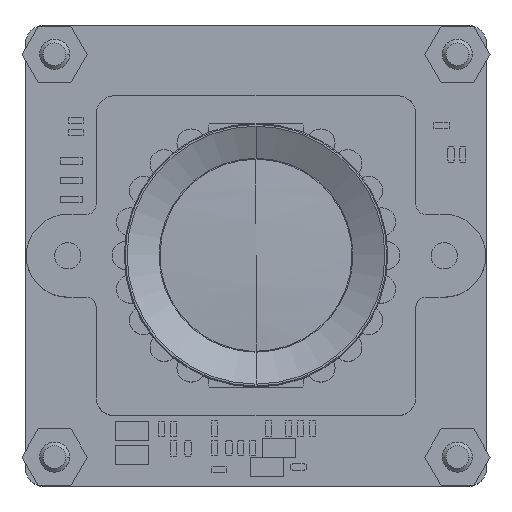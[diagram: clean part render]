
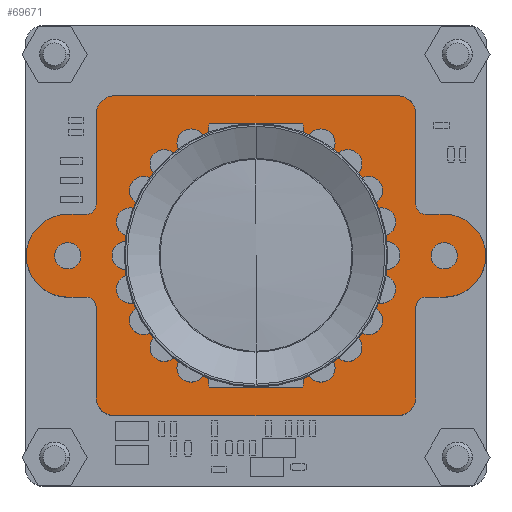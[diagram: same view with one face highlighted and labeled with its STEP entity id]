
A CAD part, top view. The second image highlights one B-rep face of the part: STEP entity #69671.
In plain terms, the highlighted planar face has unit normal (0, 0, 1) as drawn and (0, 0, -1) by its records, which use the part's own axes.
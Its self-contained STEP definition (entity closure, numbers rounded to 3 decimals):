
#68678=DIRECTION('',(0.,1.,0.));
#68679=VECTOR('',#68678,1.);
#68680=CARTESIAN_POINT('',(1156.924,388.466,0.));
#68681=LINE('',#68680,#68679);
#68682=CARTESIAN_POINT('',(1154.724,389.466,0.));
#68683=DIRECTION('',(0.,0.,1.));
#68684=DIRECTION('',(1.,0.,0.));
#68685=AXIS2_PLACEMENT_3D('',#68682,#68683,#68684);
#68687=DIRECTION('',(0.,-1.,0.));
#68688=VECTOR('',#68687,1.);
#68689=CARTESIAN_POINT('',(1152.524,389.466,0.));
#68690=LINE('',#68689,#68688);
#68691=CARTESIAN_POINT('',(1152.024,388.466,0.));
#68692=DIRECTION('',(0.,0.,-1.));
#68693=DIRECTION('',(1.,0.,0.));
#68694=AXIS2_PLACEMENT_3D('',#68691,#68692,#68693);
#68696=DIRECTION('',(-1.,0.,0.));
#68697=VECTOR('',#68696,4.8);
#68698=CARTESIAN_POINT('',(1152.024,387.966,0.));
#68699=LINE('',#68698,#68697);
#68700=CARTESIAN_POINT('',(1147.224,386.966,0.));
#68701=DIRECTION('',(0.,0.,1.));
#68702=DIRECTION('',(0.,1.,0.));
#68703=AXIS2_PLACEMENT_3D('',#68700,#68701,#68702);
#68705=DIRECTION('',(0.,-1.,0.));
#68706=VECTOR('',#68705,15.);
#68707=CARTESIAN_POINT('',(1146.224,386.966,0.));
#68708=LINE('',#68707,#68706);
#68709=CARTESIAN_POINT('',(1147.224,371.966,0.));
#68710=DIRECTION('',(0.,0.,1.));
#68711=DIRECTION('',(-1.,0.,0.));
#68712=AXIS2_PLACEMENT_3D('',#68709,#68710,#68711);
#68714=DIRECTION('',(1.,0.,0.));
#68715=VECTOR('',#68714,4.8);
#68716=CARTESIAN_POINT('',(1147.224,370.966,0.));
#68717=LINE('',#68716,#68715);
#68718=CARTESIAN_POINT('',(1152.024,370.466,0.));
#68719=DIRECTION('',(0.,0.,-1.));
#68720=DIRECTION('',(0.,1.,0.));
#68721=AXIS2_PLACEMENT_3D('',#68718,#68719,#68720);
#68723=DIRECTION('',(0.,-1.,0.));
#68724=VECTOR('',#68723,1.);
#68725=CARTESIAN_POINT('',(1152.524,370.466,0.));
#68726=LINE('',#68725,#68724);
#68727=CARTESIAN_POINT('',(1154.724,369.466,0.));
#68728=DIRECTION('',(0.,0.,1.));
#68729=DIRECTION('',(-1.,0.,0.));
#68730=AXIS2_PLACEMENT_3D('',#68727,#68728,#68729);
#68732=DIRECTION('',(0.,1.,0.));
#68733=VECTOR('',#68732,1.);
#68734=CARTESIAN_POINT('',(1156.924,369.466,0.));
#68735=LINE('',#68734,#68733);
#68736=CARTESIAN_POINT('',(1157.424,370.466,0.));
#68737=DIRECTION('',(0.,0.,-1.));
#68738=DIRECTION('',(-1.,0.,0.));
#68739=AXIS2_PLACEMENT_3D('',#68736,#68737,#68738);
#68741=DIRECTION('',(1.,0.,0.));
#68742=VECTOR('',#68741,4.8);
#68743=CARTESIAN_POINT('',(1157.424,370.966,0.));
#68744=LINE('',#68743,#68742);
#68745=CARTESIAN_POINT('',(1162.224,371.966,0.));
#68746=DIRECTION('',(0.,0.,1.));
#68747=DIRECTION('',(0.,-1.,0.));
#68748=AXIS2_PLACEMENT_3D('',#68745,#68746,#68747);
#68750=DIRECTION('',(0.,1.,0.));
#68751=VECTOR('',#68750,15.);
#68752=CARTESIAN_POINT('',(1163.224,371.966,0.));
#68753=LINE('',#68752,#68751);
#68754=CARTESIAN_POINT('',(1162.224,386.966,0.));
#68755=DIRECTION('',(0.,0.,1.));
#68756=DIRECTION('',(1.,0.,0.));
#68757=AXIS2_PLACEMENT_3D('',#68754,#68755,#68756);
#68759=DIRECTION('',(-1.,0.,0.));
#68760=VECTOR('',#68759,4.8);
#68761=CARTESIAN_POINT('',(1162.224,387.966,0.));
#68762=LINE('',#68761,#68760);
#68763=CARTESIAN_POINT('',(1157.424,388.466,0.));
#68764=DIRECTION('',(0.,0.,-1.));
#68765=DIRECTION('',(0.,-1.,0.));
#68766=AXIS2_PLACEMENT_3D('',#68763,#68764,#68765);
#68768=CARTESIAN_POINT('',(1154.724,369.467,0.));
#68769=DIRECTION('',(0.,0.,-1.));
#68770=DIRECTION('',(1.,0.,0.));
#68771=AXIS2_PLACEMENT_3D('',#68768,#68769,#68770);
#68773=CARTESIAN_POINT('',(1154.724,369.467,0.));
#68774=DIRECTION('',(0.,0.,-1.));
#68775=DIRECTION('',(-1.,0.,0.));
#68776=AXIS2_PLACEMENT_3D('',#68773,#68774,#68775);
#68778=CARTESIAN_POINT('',(1154.724,389.466,0.));
#68779=DIRECTION('',(0.,0.,-1.));
#68780=DIRECTION('',(1.,0.,0.));
#68781=AXIS2_PLACEMENT_3D('',#68778,#68779,#68780);
#68783=CARTESIAN_POINT('',(1154.724,389.466,0.));
#68784=DIRECTION('',(0.,0.,-1.));
#68785=DIRECTION('',(-1.,0.,0.));
#68786=AXIS2_PLACEMENT_3D('',#68783,#68784,#68785);
#68788=CARTESIAN_POINT('',(1154.724,379.466,0.));
#68789=DIRECTION('',(0.,0.,-1.));
#68790=DIRECTION('',(-1.,0.,0.));
#68791=AXIS2_PLACEMENT_3D('',#68788,#68789,#68790);
#68793=CARTESIAN_POINT('',(1154.724,379.466,0.));
#68794=DIRECTION('',(0.,0.,-1.));
#68795=DIRECTION('',(1.,0.,0.));
#68796=AXIS2_PLACEMENT_3D('',#68793,#68794,#68795);
#69390=CARTESIAN_POINT('',(1156.924,388.466,0.));
#69391=CARTESIAN_POINT('',(1156.924,389.466,0.));
#69392=VERTEX_POINT('',#69390);
#69393=VERTEX_POINT('',#69391);
#69394=CARTESIAN_POINT('',(1152.524,389.466,0.));
#69395=VERTEX_POINT('',#69394);
#69396=CARTESIAN_POINT('',(1152.524,388.466,0.));
#69397=VERTEX_POINT('',#69396);
#69398=CARTESIAN_POINT('',(1152.024,387.966,0.));
#69399=VERTEX_POINT('',#69398);
#69400=CARTESIAN_POINT('',(1147.224,387.966,0.));
#69401=VERTEX_POINT('',#69400);
#69402=CARTESIAN_POINT('',(1146.224,386.966,0.));
#69403=VERTEX_POINT('',#69402);
#69404=CARTESIAN_POINT('',(1146.224,371.966,0.));
#69405=VERTEX_POINT('',#69404);
#69406=CARTESIAN_POINT('',(1147.224,370.966,0.));
#69407=VERTEX_POINT('',#69406);
#69408=CARTESIAN_POINT('',(1152.024,370.966,0.));
#69409=VERTEX_POINT('',#69408);
#69410=CARTESIAN_POINT('',(1152.524,370.466,0.));
#69411=VERTEX_POINT('',#69410);
#69412=CARTESIAN_POINT('',(1152.524,369.466,0.));
#69413=VERTEX_POINT('',#69412);
#69414=CARTESIAN_POINT('',(1156.924,369.466,0.));
#69415=VERTEX_POINT('',#69414);
#69416=CARTESIAN_POINT('',(1156.924,370.466,0.));
#69417=VERTEX_POINT('',#69416);
#69418=CARTESIAN_POINT('',(1157.424,370.966,0.));
#69419=VERTEX_POINT('',#69418);
#69420=CARTESIAN_POINT('',(1162.224,370.966,0.));
#69421=VERTEX_POINT('',#69420);
#69422=CARTESIAN_POINT('',(1163.224,371.966,0.));
#69423=VERTEX_POINT('',#69422);
#69424=CARTESIAN_POINT('',(1163.224,386.966,0.));
#69425=VERTEX_POINT('',#69424);
#69426=CARTESIAN_POINT('',(1162.224,387.966,0.));
#69427=VERTEX_POINT('',#69426);
#69428=CARTESIAN_POINT('',(1157.424,387.966,0.));
#69429=VERTEX_POINT('',#69428);
#69430=CARTESIAN_POINT('',(1155.424,369.467,0.));
#69431=CARTESIAN_POINT('',(1154.024,369.467,0.));
#69432=VERTEX_POINT('',#69430);
#69433=VERTEX_POINT('',#69431);
#69434=CARTESIAN_POINT('',(1155.424,389.466,0.));
#69435=CARTESIAN_POINT('',(1154.024,389.466,0.));
#69436=VERTEX_POINT('',#69434);
#69437=VERTEX_POINT('',#69435);
#69438=CARTESIAN_POINT('',(1147.724,379.466,0.));
#69439=CARTESIAN_POINT('',(1161.724,379.466,0.));
#69440=VERTEX_POINT('',#69438);
#69441=VERTEX_POINT('',#69439);
#69606=CARTESIAN_POINT('',(0.,0.,0.));
#69607=DIRECTION('',(0.,0.,1.));
#69608=DIRECTION('',(1.,0.,0.));
#69609=AXIS2_PLACEMENT_3D('',#69606,#69607,#69608);
#69610=PLANE('',#69609);
#69612=ORIENTED_EDGE('',*,*,#69611,.T.);
#69614=ORIENTED_EDGE('',*,*,#69613,.T.);
#69616=ORIENTED_EDGE('',*,*,#69615,.T.);
#69618=ORIENTED_EDGE('',*,*,#69617,.T.);
#69620=ORIENTED_EDGE('',*,*,#69619,.T.);
#69622=ORIENTED_EDGE('',*,*,#69621,.T.);
#69624=ORIENTED_EDGE('',*,*,#69623,.T.);
#69626=ORIENTED_EDGE('',*,*,#69625,.T.);
#69628=ORIENTED_EDGE('',*,*,#69627,.T.);
#69630=ORIENTED_EDGE('',*,*,#69629,.T.);
#69632=ORIENTED_EDGE('',*,*,#69631,.T.);
#69634=ORIENTED_EDGE('',*,*,#69633,.T.);
#69636=ORIENTED_EDGE('',*,*,#69635,.T.);
#69638=ORIENTED_EDGE('',*,*,#69637,.T.);
#69640=ORIENTED_EDGE('',*,*,#69639,.T.);
#69642=ORIENTED_EDGE('',*,*,#69641,.T.);
#69644=ORIENTED_EDGE('',*,*,#69643,.T.);
#69646=ORIENTED_EDGE('',*,*,#69645,.T.);
#69648=ORIENTED_EDGE('',*,*,#69647,.T.);
#69650=ORIENTED_EDGE('',*,*,#69649,.T.);
#69651=EDGE_LOOP('',(#69612,#69614,#69616,#69618,#69620,#69622,#69624,#69626,
#69628,#69630,#69632,#69634,#69636,#69638,#69640,#69642,#69644,#69646,#69648,
#69650));
#69652=FACE_OUTER_BOUND('',#69651,.F.);
#69654=ORIENTED_EDGE('',*,*,#69653,.T.);
#69656=ORIENTED_EDGE('',*,*,#69655,.T.);
#69657=EDGE_LOOP('',(#69654,#69656));
#69658=FACE_BOUND('',#69657,.F.);
#69660=ORIENTED_EDGE('',*,*,#69659,.T.);
#69662=ORIENTED_EDGE('',*,*,#69661,.T.);
#69663=EDGE_LOOP('',(#69660,#69662));
#69664=FACE_BOUND('',#69663,.F.);
#69666=ORIENTED_EDGE('',*,*,#69665,.T.);
#69668=ORIENTED_EDGE('',*,*,#69667,.T.);
#69669=EDGE_LOOP('',(#69666,#69668));
#69670=FACE_BOUND('',#69669,.F.);
#68686=CIRCLE('',#68685,2.2);
#68695=CIRCLE('',#68694,0.5);
#68704=CIRCLE('',#68703,1.);
#68713=CIRCLE('',#68712,1.);
#68722=CIRCLE('',#68721,0.5);
#68731=CIRCLE('',#68730,2.2);
#68740=CIRCLE('',#68739,0.5);
#68749=CIRCLE('',#68748,1.);
#68758=CIRCLE('',#68757,1.);
#68767=CIRCLE('',#68766,0.5);
#68772=CIRCLE('',#68771,0.7);
#68777=CIRCLE('',#68776,0.7);
#68782=CIRCLE('',#68781,0.7);
#68787=CIRCLE('',#68786,0.7);
#68792=CIRCLE('',#68791,7.);
#68797=CIRCLE('',#68796,7.);
#69611=EDGE_CURVE('',#69392,#69393,#68681,.T.);
#69613=EDGE_CURVE('',#69393,#69395,#68686,.T.);
#69615=EDGE_CURVE('',#69395,#69397,#68690,.T.);
#69617=EDGE_CURVE('',#69397,#69399,#68695,.T.);
#69619=EDGE_CURVE('',#69399,#69401,#68699,.T.);
#69621=EDGE_CURVE('',#69401,#69403,#68704,.T.);
#69623=EDGE_CURVE('',#69403,#69405,#68708,.T.);
#69625=EDGE_CURVE('',#69405,#69407,#68713,.T.);
#69627=EDGE_CURVE('',#69407,#69409,#68717,.T.);
#69629=EDGE_CURVE('',#69409,#69411,#68722,.T.);
#69631=EDGE_CURVE('',#69411,#69413,#68726,.T.);
#69633=EDGE_CURVE('',#69413,#69415,#68731,.T.);
#69635=EDGE_CURVE('',#69415,#69417,#68735,.T.);
#69637=EDGE_CURVE('',#69417,#69419,#68740,.T.);
#69639=EDGE_CURVE('',#69419,#69421,#68744,.T.);
#69641=EDGE_CURVE('',#69421,#69423,#68749,.T.);
#69643=EDGE_CURVE('',#69423,#69425,#68753,.T.);
#69645=EDGE_CURVE('',#69425,#69427,#68758,.T.);
#69647=EDGE_CURVE('',#69427,#69429,#68762,.T.);
#69649=EDGE_CURVE('',#69429,#69392,#68767,.T.);
#69653=EDGE_CURVE('',#69432,#69433,#68772,.T.);
#69655=EDGE_CURVE('',#69433,#69432,#68777,.T.);
#69659=EDGE_CURVE('',#69436,#69437,#68782,.T.);
#69661=EDGE_CURVE('',#69437,#69436,#68787,.T.);
#69665=EDGE_CURVE('',#69440,#69441,#68792,.T.);
#69667=EDGE_CURVE('',#69441,#69440,#68797,.T.);
#69671=ADVANCED_FACE('',(#69652,#69658,#69664,#69670),#69610,.F.);
